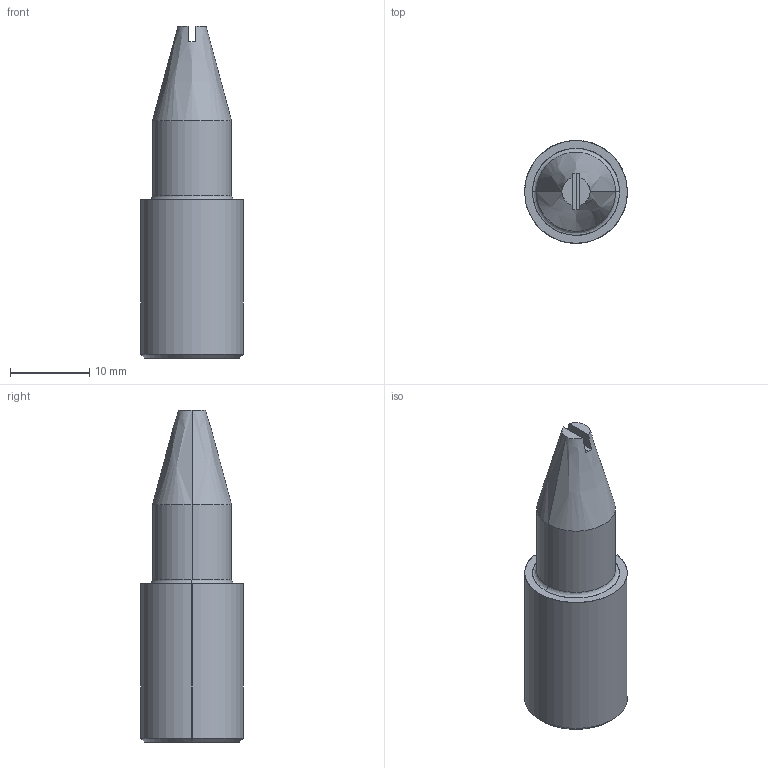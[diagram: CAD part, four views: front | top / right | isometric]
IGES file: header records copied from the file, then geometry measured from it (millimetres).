
Global section: file name: E:\UnigraphicsGraphicData\MISUMI_PRESS-PARTS\IGES\3d_sdst13_03098_r00.igs; native system: NX V5.0; preprocessor: UGS NX IGES V5.0; author: MISUMI; date: 20110105.162517; units: millimetre
Bounding box: 13 x 13 x 42 mm (x, y, z)
Surface area: 1989.2 mm2 (no closed solid volume)
Topology: 0 solids, 0 shells, 21 faces, 124 edges, 124 vertices
Faces by surface type: bspline 21
